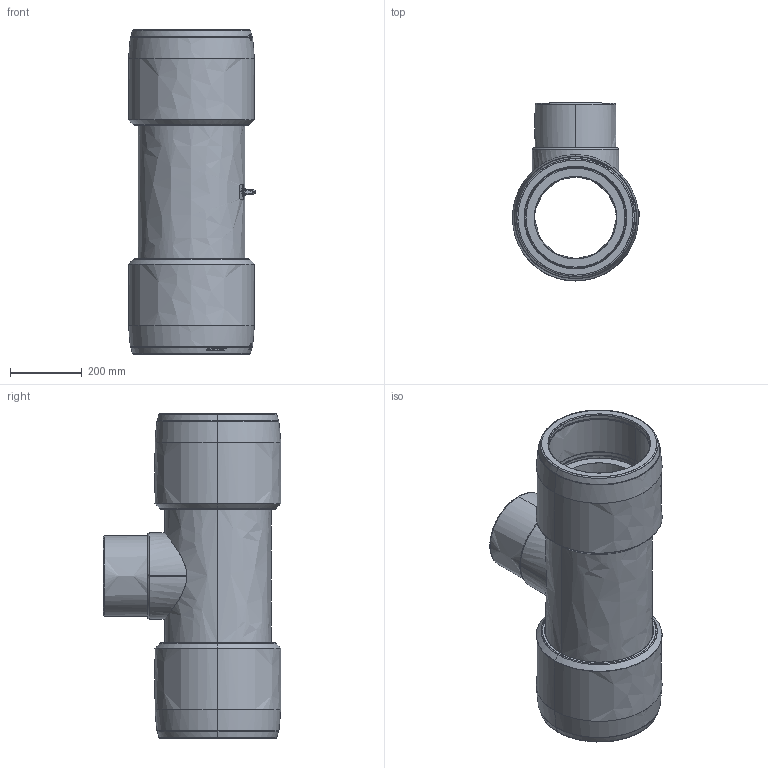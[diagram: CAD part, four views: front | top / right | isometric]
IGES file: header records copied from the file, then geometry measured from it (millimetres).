
Start section:  PTC IGES file: t-red-xl_d280-225.igs
Global section: file name: t-red-xl_d280-225.igs; native system: Pro/ENGINEER by Parametric Technology Corporation; preprocessor: 2011490; author: mtunjic; organization: Unknown; date: 20130729.145306; units: millimetre
Bounding box: 352.99 x 494 x 902 mm (x, y, z)
Surface area: 2396528.7 mm2 (no closed solid volume)
Topology: 0 solids, 0 shells, 518 faces, 2594 edges, 2594 vertices
Faces by surface type: bspline 518
